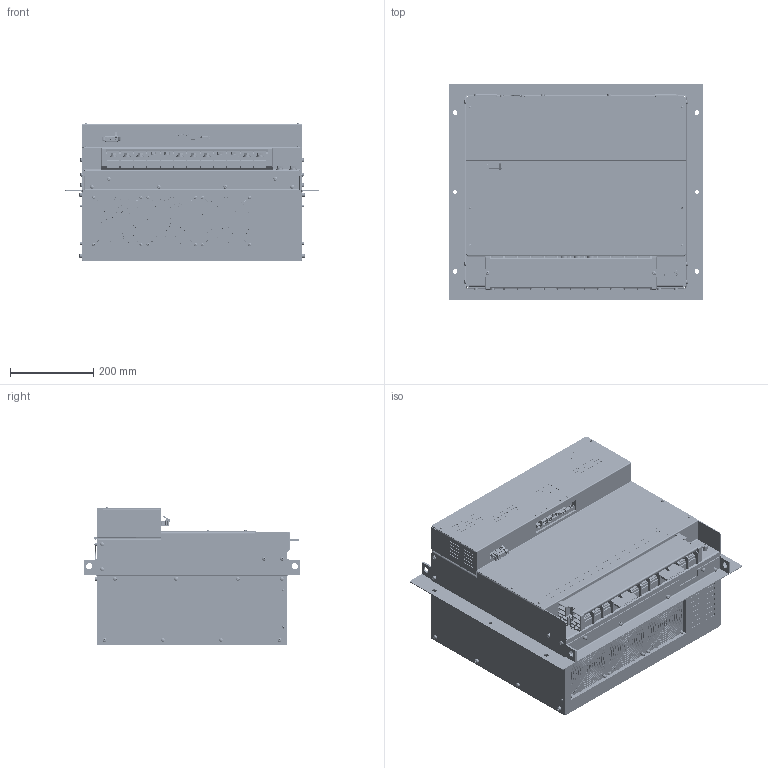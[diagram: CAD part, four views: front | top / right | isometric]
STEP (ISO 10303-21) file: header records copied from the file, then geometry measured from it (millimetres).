
FILE_DESCRIPTION (( 'STEP AP203' ), '1' );
FILE_NAME ('NCR-HD3_753#SE-85920.STEP', '2021-07-13T05:17:43', ( '' ), ( '' ), 'SwSTEP 2.0', 'SolidWorks 2018', '' );
FILE_SCHEMA (( 'CONFIG_CONTROL_DESIGN' ));
Products named in the file (1): NCR-HD3_753#SE-85920
Bounding box: 610 x 520 x 332.95 mm (x, y, z)
Volume: 68515367.3 mm3; surface area: 1948249.2 mm2
Topology: 4 solids, 44 shells, 18609 faces, 50993 edges, 32899 vertices
Faces by surface type: plane 12211, cylinder 2943, bspline 1826, cone 1195, torus 302, sphere 132
Entity records: 652749 total; most frequent: CARTESIAN_POINT 186089, ORIENTED_EDGE 101714, DIRECTION 90374, EDGE_CURVE 50857, VECTOR 34532, LINE 34532, VERTEX_POINT 32899, AXIS2_PLACEMENT_3D 27921
